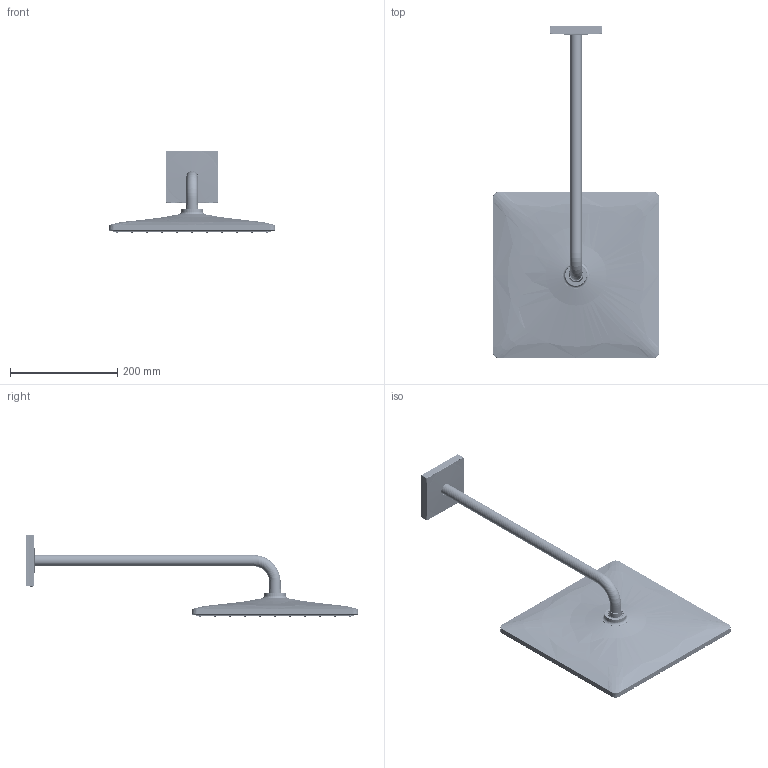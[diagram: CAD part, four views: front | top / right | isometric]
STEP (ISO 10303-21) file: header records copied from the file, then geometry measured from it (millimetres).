
FILE_DESCRIPTION(/* description */ ('Unknown'),/* implementation_level */ '2;1');
FILE_NAME(/* name */ '26563000',/* time_stamp */ '2022-09-08T18:50:27+02:00',/* author */ ('Unknown'),/* organization */ ('GROHE AG'),/* preprocessor_version */ 'ST-DEVELOPER v16.7',/* originating_system */ 'DEX',/* authorisation */ $);
FILE_SCHEMA (('AUTOMOTIVE_DESIGN {1 0 10303 214 3 1 1}'));
Products named in the file (12): 26563000; 26563000_0; 26563000_1; 26563000_2; 26563000_3; id3659; 20161121_SQUARE_LOZENGE_NOZZLES_RADIUS; 20161121_SQUARE_SPRAYFACE_RADIUS; 30.4074.00000 for customer open; EXTRUDE#636; STSplus-06038035-0029
Assembly tree (11 placements, depth 2):
  26563000
    26563000
    26563000_0
    26563000_1
    26563000_2
    26563000_3
    id3659
    20161121_SQUARE_LOZENGE_NOZZLES_RADIUS
    20161121_SQUARE_SPRAYFACE_RADIUS
    30.4074.00000 for customer open
    EXTRUDE#636
    STSplus-06038035-0029
Bounding box: 310 x 620.21 x 155.01 mm (x, y, z)
Volume: 203959.3 mm3; surface area: 563807.7 mm2
Topology: 5 solids, 503 shells, 5135 faces, 16156 edges, 11058 vertices
Faces by surface type: bspline 2263, cylinder 1185, plane 890, torus 517, cone 191, sphere 89
Full cylindrical faces by diameter (mm): 1.2 x5, 4 x120, 4.1 x32, 21 x2, 23 x1, 30 x1, 50.2 x1
Entity records: 247705 total; most frequent: CARTESIAN_POINT 102719, ORIENTED_EDGE 23513, DIRECTION 19828, EDGE_CURVE 14639, VERTEX_POINT 10663, AXIS2_PLACEMENT_3D 8476, FACE_BOUND 6485, EDGE_LOOP 6434
